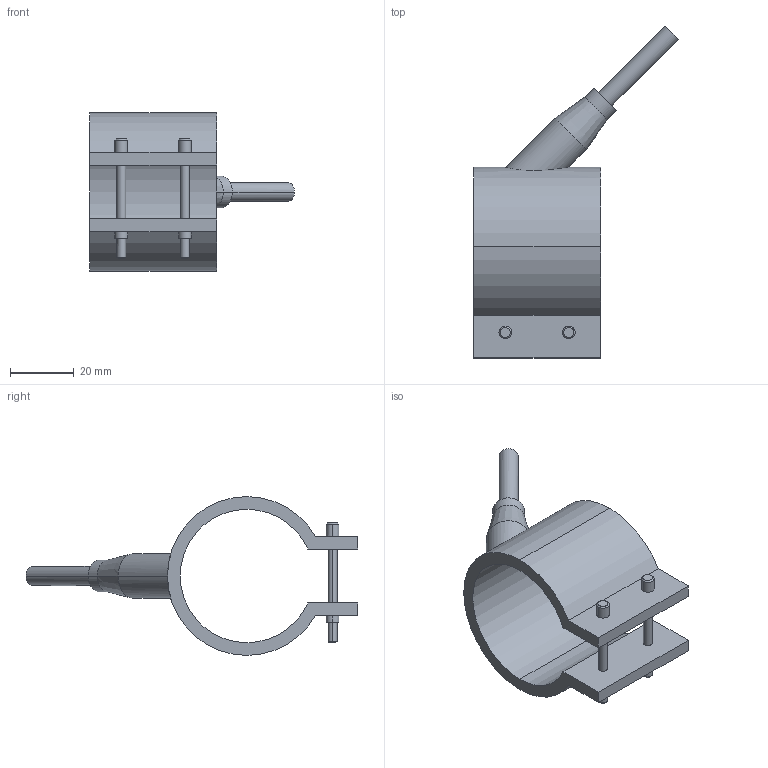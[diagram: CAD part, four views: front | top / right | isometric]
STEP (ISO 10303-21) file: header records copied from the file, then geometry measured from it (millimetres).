
FILE_DESCRIPTION(('CATIA V5 STEP Exchange'),'2;1');
FILE_NAME('C:\Users\Utente\Desktop\IO LAVORO\3D X SITO CF\X SITO\PLASTICA\RF1\29042040.stp','2021-03-27T09:37:43+00:00',('none'),('none'),'CATIA Version 5 Release 20 GA (IN-10)','CATIA V5 STEP AP203','none');
FILE_SCHEMA(('CONFIG_CONTROL_DESIGN'));
Length unit declared in the file: millimetre
Products named in the file (1): 29042040
Bounding box: 64.55 x 104.55 x 50 mm (x, y, z)
Volume: 29542 mm3; surface area: 15883.9 mm2
Topology: 1 solids, 1 shells, 54 faces, 123 edges, 79 vertices
Faces by surface type: cylinder 28, plane 16, cone 10
Entity records: 1735 total; most frequent: CARTESIAN_POINT 503, ORIENTED_EDGE 246, DIRECTION 213, EDGE_CURVE 123, AXIS2_PLACEMENT_3D 106, VERTEX_POINT 79, EDGE_LOOP 66, VECTOR 56
